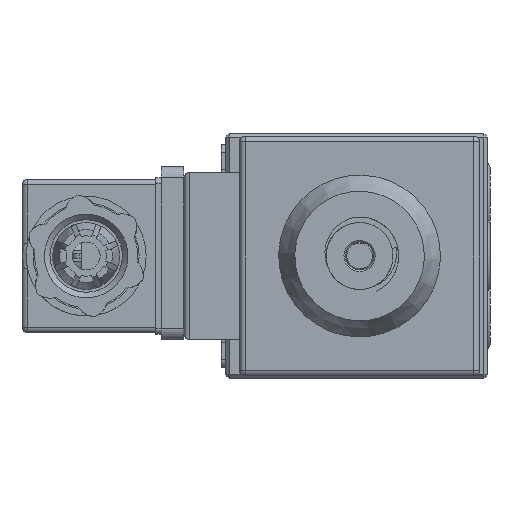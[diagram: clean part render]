
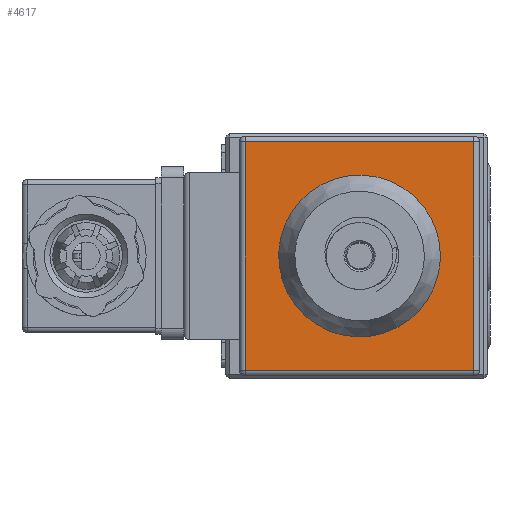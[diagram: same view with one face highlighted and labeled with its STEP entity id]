
A CAD part, left-side view. The second image highlights one B-rep face of the part: STEP entity #4617.
In plain terms, the highlighted planar face has unit normal (-1, 0, 0).
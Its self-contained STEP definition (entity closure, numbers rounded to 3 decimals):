
#4617=ADVANCED_FACE('',(#10017,#10018),#7005,.T.);
#7005=PLANE('',#45956);
#9456=CIRCLE('',#45953,11.);
#10017=FACE_BOUND('',#10605,.T.);
#10018=FACE_BOUND('',#10606,.T.);
#10605=EDGE_LOOP('',(#13329,#13330,#13331,#13332));
#10606=EDGE_LOOP('',(#13333));
#13329=ORIENTED_EDGE('',*,*,#29708,.T.);
#13330=ORIENTED_EDGE('',*,*,#29709,.T.);
#13331=ORIENTED_EDGE('',*,*,#29710,.T.);
#13332=ORIENTED_EDGE('',*,*,#29711,.T.);
#13333=ORIENTED_EDGE('',*,*,#29706,.F.);
#25581=VERTEX_POINT('',#59724);
#25583=VERTEX_POINT('',#59729);
#25584=VERTEX_POINT('',#59730);
#25585=VERTEX_POINT('',#59732);
#25586=VERTEX_POINT('',#59734);
#29706=EDGE_CURVE('',#25581,#25581,#9456,.T.);
#29708=EDGE_CURVE('',#25583,#25584,#35829,.T.);
#29709=EDGE_CURVE('',#25584,#25585,#35830,.T.);
#29710=EDGE_CURVE('',#25585,#25586,#35831,.T.);
#29711=EDGE_CURVE('',#25586,#25583,#35832,.T.);
#35829=LINE('',#59728,#40863);
#35830=LINE('',#59731,#40864);
#35831=LINE('',#59733,#40865);
#35832=LINE('',#59735,#40866);
#40863=VECTOR('',#48845,1.);
#40864=VECTOR('',#48846,1.);
#40865=VECTOR('',#48847,1.);
#40866=VECTOR('',#48848,1.);
#45953=AXIS2_PLACEMENT_3D('',#59723,#48839,#48840);
#45956=AXIS2_PLACEMENT_3D('',#59736,#48849,#48850);
#48839=DIRECTION('',(-1.,0.,0.));
#48840=DIRECTION('',(0.,1.,0.));
#48845=DIRECTION('',(0.,-1.,0.));
#48846=DIRECTION('',(0.,0.,1.));
#48847=DIRECTION('',(0.,1.,0.));
#48848=DIRECTION('',(0.,0.,-1.));
#48849=DIRECTION('',(-1.,0.,0.));
#48850=DIRECTION('',(0.,-1.,0.));
#59723=CARTESIAN_POINT('',(60.226,171.761,0.));
#59724=CARTESIAN_POINT('',(60.226,182.761,0.));
#59728=CARTESIAN_POINT('',(60.226,171.761,-20.5));
#59729=CARTESIAN_POINT('',(60.226,192.261,-20.5));
#59730=CARTESIAN_POINT('',(60.226,151.261,-20.5));
#59731=CARTESIAN_POINT('',(60.226,151.261,0.));
#59732=CARTESIAN_POINT('',(60.226,151.261,20.5));
#59733=CARTESIAN_POINT('',(60.226,171.761,20.5));
#59734=CARTESIAN_POINT('',(60.226,192.261,20.5));
#59735=CARTESIAN_POINT('',(60.226,192.261,0.));
#59736=CARTESIAN_POINT('',(60.226,171.761,0.));
